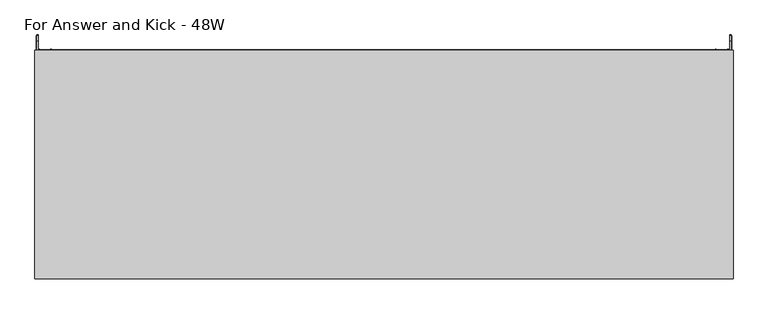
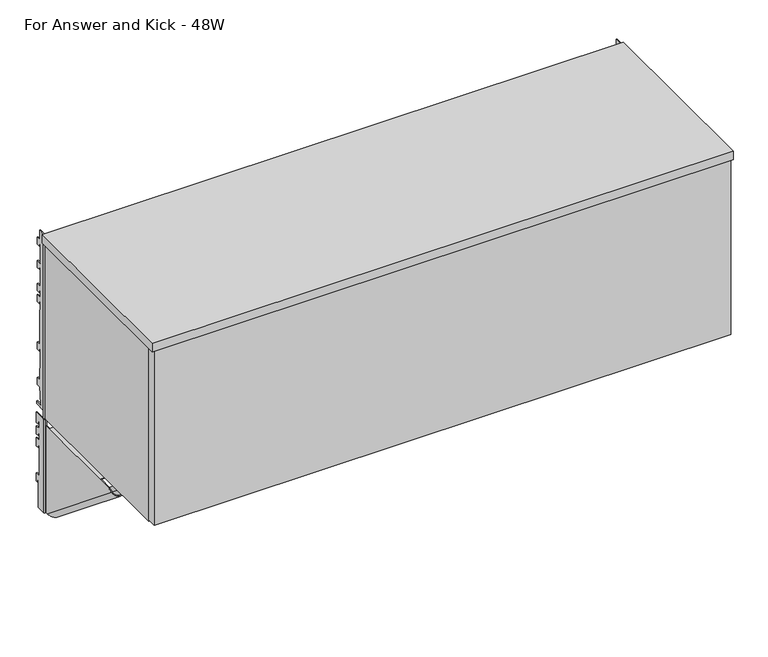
"""IFC4 building model written with IfcOpenShell, lengths in millimetres: furniture geometry, Steelcase - Universal Storage - In the Case Bin - Flat Front : For Answer and Kick - 48W."""

from ifc_helpers import new_model, si_unit, point, frame, frame_2d, origin, place, context, project, spatial, polyline, circle_curve, ellipse_curve, trimmed, segment, composite_curve, outline, extrude, faceted_brep, source, transform, mapped, element, save
from ifc_brep_helpers import plane_surface, cylinder_surface, revolved_surface, advanced_brep


def for_answer_and_kick_48w_fee2293e(model_context):
    return source(origin(), model_context, "Body", "SolidModel", [
        advanced_brep(
        [(4.0894, 24.9864881, 1247.9655), (4.0894, 1.1327479, 1247.9655), (4.0894, 1.1203386, 1040.9809), (4.0894, 17.3410881, 1040.9809), (4.0894, 17.3410881, 1101.1280822), (4.0894, 21.4050888, 1101.1280822), (4.0894, 21.4050888, 1094.7781064), (4.0894, 24.9864881, 1094.7781064), (4.0894, 24.9864881, 1113.0407271), (4.0894, 14.7756879, 1113.0407271), (4.0894, 14.7756879, 1179.6141345), (4.0894, 18.8396885, 1179.6141345), (4.0894, 18.8396885, 1173.264086), (4.0894, 24.9864881, 1173.264086), (4.0894, 24.9864881, 1191.5267068), (4.0894, 14.7756879, 1191.5267068), (4.0894, 14.7756879, 1205.7761277), (4.0894, 18.8396885, 1205.7761277), (4.0894, 18.8396885, 1199.4260793), (4.0894, 24.9864881, 1199.4260793), (4.0894, 24.9864881, 1217.6887), (4.0894, 14.7756879, 1217.6887), (4.0894, 14.7756879, 1231.9381209), (4.0894, 18.8396885, 1231.9381209), (4.0894, 18.8396885, 1225.5880725), (4.0894, 24.9864881, 1225.5880725), (2.1844, 24.9864881, 1247.9655), (2.1844, 24.9864881, 1225.5880725), (2.1844, 18.8396885, 1225.5880725), (2.1844, 18.8396885, 1231.9381209), (2.1844, 14.7756879, 1231.9381209), (2.1844, 14.7756879, 1217.6887), (2.1844, 24.9864881, 1217.6887), (2.1844, 24.9864881, 1199.4260793), (2.1844, 18.8396885, 1199.4260793), (2.1844, 18.8396885, 1205.7761277), (2.1844, 14.7756879, 1205.7761277), (2.1844, 14.7756879, 1191.5267068), (2.1844, 24.9864881, 1191.5267068), (2.1844, 24.9864881, 1173.264086), (2.1844, 18.8396885, 1173.264086), (2.1844, 18.8396885, 1179.6141345), (2.1844, 14.7756879, 1179.6141345), (2.1844, 14.7756879, 1113.0407271), (2.1844, 24.9864881, 1113.0407271), (2.1844, 24.9864881, 1094.7781064), (2.1844, 21.4050888, 1094.7781064), (2.1844, 21.4050888, 1101.1280822), (2.1844, 17.3410881, 1101.1280822), (2.1844, 17.3410881, 1040.9809), (2.1844, -0.7757522, 1040.9809), (2.1844, -0.7757522, 1247.9655), (4.4891598, -3.080512, 1247.9655), (8.1026, -3.080512, 1247.9655), (8.1026, -1.7838863, 1247.9655), (7.4942256, -1.175512, 1247.9655), (6.3852506, -1.175512, 1247.9655), (6.3852506, -1.175512, 1040.9809), (7.4942256, -1.175512, 1040.9809), (8.1026, -1.7838863, 1040.9809), (8.1026, -3.080512, 1040.9809), (4.4891598, -3.080512, 1040.9809)],
        [
            (0, 1),
            (1, 2),
            (2, 3),
            (3, 4),
            (4, 5),
            (5, 6),
            (6, 7),
            (7, 8),
            (8, 9),
            (9, 10),
            (10, 11),
            (11, 12),
            (12, 13),
            (13, 14),
            (14, 15),
            (15, 16),
            (16, 17),
            (17, 18),
            (18, 19),
            (19, 20),
            (20, 21),
            (21, 22),
            (22, 23),
            (23, 24),
            (24, 25),
            (25, 0),
            (26, 27),
            (27, 28),
            (28, 29),
            (29, 30),
            (30, 31),
            (31, 32),
            (32, 33),
            (33, 34),
            (34, 35),
            (35, 36),
            (36, 37),
            (37, 38),
            (38, 39),
            (39, 40),
            (40, 41),
            (41, 42),
            (42, 43),
            (43, 44),
            (44, 45),
            (45, 46),
            (46, 47),
            (47, 48),
            (48, 49),
            (49, 50),
            (50, 51),
            (51, 26),
            (0, 26),
            (51, 52, circle_curve(frame((4.4891598, -0.7757522, 1247.9655), z_axis=(0.0, 0.0, 1.0), x_axis=(1.0, 0.0, 0.0)), 2.3047598)),
            (52, 53),
            (53, 54),
            (54, 55, circle_curve(frame((7.4942256, -1.7838863, 1247.9655), z_axis=(0.0, 0.0, 1.0), x_axis=(1.0, 0.0, 0.0)), 0.6083744)),
            (55, 56),
            (56, 1, circle_curve(frame((6.3852506, 1.1203386, 1247.9655), z_axis=(0.0, 0.0, -1.0), x_axis=(1.0, 0.0, 0.0)), 2.2958506)),
            (2, 57, circle_curve(frame((6.3852506, 1.1203386, 1040.9809), z_axis=(0.0, 0.0, 1.0), x_axis=(1.0, 0.0, 0.0)), 2.2958506)),
            (57, 58),
            (58, 59, circle_curve(frame((7.4942256, -1.7838863, 1040.9809), z_axis=(0.0, 0.0, -1.0), x_axis=(1.0, 0.0, 0.0)), 0.6083744)),
            (59, 60),
            (60, 61),
            (61, 50, circle_curve(frame((4.4891598, -0.7757522, 1040.9809), z_axis=(0.0, 0.0, -1.0), x_axis=(1.0, 0.0, 0.0)), 2.3047598)),
            (49, 3),
            (48, 4),
            (47, 5),
            (46, 6),
            (45, 7),
            (44, 8),
            (43, 9),
            (42, 10),
            (41, 11),
            (40, 12),
            (39, 13),
            (38, 14),
            (37, 15),
            (36, 16),
            (35, 17),
            (34, 18),
            (33, 19),
            (32, 20),
            (31, 21),
            (30, 22),
            (29, 23),
            (28, 24),
            (27, 25),
            (61, 52),
            (60, 53),
            (59, 54),
            (58, 55),
            (57, 56),
        ],
        [
            plane_surface(frame((4.0894, 1.241405, 1247.9655), z_axis=(1.0, 0.0, 0.0), x_axis=(0.0, -1.0, 0.0))),
            plane_surface(frame((2.1844, 1.241405, 1247.9655), z_axis=(-1.0, 0.0, 0.0), x_axis=(0.0, 1.0, 0.0))),
            plane_surface(frame((4.0894, 24.9864881, 1247.9655), z_axis=(0.0, 0.0, 1.0), x_axis=(-1.0, 0.0, 0.0))),
            plane_surface(frame((4.0894, 1.1327479, 1040.9809), z_axis=(0.0, 0.0, -1.0), x_axis=(-1.0, 0.0, 0.0))),
            plane_surface(frame((4.0894, 17.3410881, 1040.9809), z_axis=(0.0, 1.0, 0.0), x_axis=(-1.0, 0.0, 0.0))),
            plane_surface(frame((4.0894, 17.3410881, 1101.1280822), z_axis=(0.0, 0.0, -1.0), x_axis=(-1.0, 0.0, 0.0))),
            plane_surface(frame((4.0894, 21.4050888, 1101.1280822), z_axis=(0.0, -1.0, 0.0), x_axis=(-1.0, 0.0, 0.0))),
            plane_surface(frame((4.0894, 21.4050888, 1094.7781064), z_axis=(0.0, 0.0, -1.0), x_axis=(-1.0, 0.0, 0.0))),
            plane_surface(frame((4.0894, 24.9864881, 1094.7781064), z_axis=(0.0, 1.0, 0.0), x_axis=(-1.0, 0.0, 0.0))),
            plane_surface(frame((4.0894, 24.9864881, 1113.0407271), z_axis=(0.0, 0.0, 1.0), x_axis=(-1.0, 0.0, 0.0))),
            plane_surface(frame((4.0894, 14.7756879, 1113.0407271), z_axis=(0.0, 1.0, 0.0), x_axis=(-1.0, 0.0, 0.0))),
            plane_surface(frame((4.0894, 14.7756879, 1179.6141345), z_axis=(0.0, 0.0, -1.0), x_axis=(-1.0, 0.0, 0.0))),
            plane_surface(frame((4.0894, 18.8396885, 1179.6141345), z_axis=(0.0, -1.0, 0.0), x_axis=(-1.0, 0.0, 0.0))),
            plane_surface(frame((4.0894, 18.8396885, 1173.264086), z_axis=(0.0, 0.0, -1.0), x_axis=(-1.0, 0.0, 0.0))),
            plane_surface(frame((4.0894, 24.9864881, 1173.264086), z_axis=(0.0, 1.0, 0.0), x_axis=(-1.0, 0.0, 0.0))),
            plane_surface(frame((4.0894, 24.9864881, 1191.5267068), z_axis=(0.0, 0.0, 1.0), x_axis=(-1.0, 0.0, 0.0))),
            plane_surface(frame((4.0894, 14.7756879, 1191.5267068), z_axis=(0.0, 1.0, 0.0), x_axis=(-1.0, 0.0, 0.0))),
            plane_surface(frame((4.0894, 14.7756879, 1205.7761277), z_axis=(0.0, 0.0, -1.0), x_axis=(-1.0, 0.0, 0.0))),
            plane_surface(frame((4.0894, 18.8396885, 1205.7761277), z_axis=(0.0, -1.0, 0.0), x_axis=(-1.0, 0.0, 0.0))),
            plane_surface(frame((4.0894, 18.8396885, 1199.4260793), z_axis=(0.0, 0.0, -1.0), x_axis=(-1.0, 0.0, 0.0))),
            plane_surface(frame((4.0894, 24.9864881, 1199.4260793), z_axis=(0.0, 1.0, 0.0), x_axis=(-1.0, 0.0, 0.0))),
            plane_surface(frame((4.0894, 24.9864881, 1217.6887), z_axis=(0.0, 0.0, 1.0), x_axis=(-1.0, 0.0, 0.0))),
            plane_surface(frame((4.0894, 14.7756879, 1217.6887), z_axis=(0.0, 1.0, 0.0), x_axis=(-1.0, 0.0, 0.0))),
            plane_surface(frame((4.0894, 14.7756879, 1231.9381209), z_axis=(0.0, 0.0, -1.0), x_axis=(-1.0, 0.0, 0.0))),
            plane_surface(frame((4.0894, 18.8396885, 1231.9381209), z_axis=(0.0, -1.0, 0.0), x_axis=(-1.0, 0.0, 0.0))),
            plane_surface(frame((4.0894, 18.8396885, 1225.5880725), z_axis=(0.0, 0.0, -1.0), x_axis=(-1.0, 0.0, 0.0))),
            plane_surface(frame((4.0894, 24.9864881, 1225.5880725), z_axis=(0.0, 1.0, 0.0), x_axis=(-1.0, 0.0, 0.0))),
            cylinder_surface(frame((4.4891598, -0.7757522, 1040.9809), z_axis=(0.0, 0.0, 1.0), x_axis=(1.0, 0.0, 0.0)), 2.3047598),
            plane_surface(frame((4.4891598, -3.080512, 1247.9655), z_axis=(0.0, -1.0, 0.0), x_axis=(0.0, 0.0, -1.0))),
            plane_surface(frame((8.1026, -3.080512, 1247.9655), z_axis=(1.0, 0.0, 0.0), x_axis=(0.0, 0.0, -1.0))),
            cylinder_surface(frame((7.4942256, -1.7838863, 1040.9809), z_axis=(0.0, 0.0, 1.0), x_axis=(1.0, 0.0, 0.0)), 0.6083744),
            plane_surface(frame((7.4942256, -1.175512, 1247.9655), z_axis=(0.0, 1.0, 0.0), x_axis=(0.0, 0.0, -1.0))),
            revolved_surface(polyline([(8.6811012, 1.1203386, 1040.9809), (8.6811012, 1.1203386, 1247.9655)]), (6.3852506, 1.1203386, 1040.9809), (0.0, 0.0, -1.0)),
        ],
        [
            (0, [[1, 2, 3, 4, 5, 6, 7, 8, 9, 10, 11, 12, 13, 14, 15, 16, 17, 18, 19, 20, 21, 22, 23, 24, 25, 26]]),
            (1, [[27, 28, 29, 30, 31, 32, 33, 34, 35, 36, 37, 38, 39, 40, 41, 42, 43, 44, 45, 46, 47, 48, 49, 50, 51, 52]]),
            (2, [[-1, 53, -52, 54, 55, 56, 57, 58, 59]]),
            (3, [[-3, 60, 61, 62, 63, 64, 65, -50, 66]]),
            (4, [[-4, -66, -49, 67]]),
            (5, [[-5, -67, -48, 68]]),
            (6, [[-6, -68, -47, 69]]),
            (7, [[-7, -69, -46, 70]]),
            (8, [[-8, -70, -45, 71]]),
            (9, [[-9, -71, -44, 72]]),
            (10, [[-10, -72, -43, 73]]),
            (11, [[-11, -73, -42, 74]]),
            (12, [[-12, -74, -41, 75]]),
            (13, [[-13, -75, -40, 76]]),
            (14, [[-14, -76, -39, 77]]),
            (15, [[-15, -77, -38, 78]]),
            (16, [[-16, -78, -37, 79]]),
            (17, [[-17, -79, -36, 80]]),
            (18, [[-18, -80, -35, 81]]),
            (19, [[-19, -81, -34, 82]]),
            (20, [[-20, -82, -33, 83]]),
            (21, [[-21, -83, -32, 84]]),
            (22, [[-22, -84, -31, 85]]),
            (23, [[-23, -85, -30, 86]]),
            (24, [[-24, -86, -29, 87]]),
            (25, [[-25, -87, -28, 88]]),
            (26, [[-26, -88, -27, -53]]),
            (27, [[-54, -51, -65, 89]]),
            (28, [[-55, -89, -64, 90]]),
            (29, [[-56, -90, -63, 91]]),
            (30, [[-57, -91, -62, 92]]),
            (31, [[-58, -92, -61, 93]]),
            (32, [[-59, -93, -60, -2]]),
        ],
    ),
        advanced_brep(
        [(1215.1106, 24.9864881, 1247.9655), (1215.1106, 24.9864881, 1225.5880725), (1215.1106, 18.8396885, 1225.5880725), (1215.1106, 18.8396885, 1231.9381209), (1215.1106, 14.7756879, 1231.9381209), (1215.1106, 14.7756879, 1217.6887), (1215.1106, 24.9864881, 1217.6887), (1215.1106, 24.9864881, 1199.4260793), (1215.1106, 18.8396885, 1199.4260793), (1215.1106, 18.8396885, 1205.7761277), (1215.1106, 14.7756879, 1205.7761277), (1215.1106, 14.7756879, 1191.5267068), (1215.1106, 24.9864881, 1191.5267068), (1215.1106, 24.9864881, 1173.264086), (1215.1106, 18.8396885, 1173.264086), (1215.1106, 18.8396885, 1179.6141345), (1215.1106, 14.7756879, 1179.6141345), (1215.1106, 14.7756879, 1113.0407271), (1215.1106, 24.9864881, 1113.0407271), (1215.1106, 24.9864881, 1094.7781064), (1215.1106, 21.4050888, 1094.7781064), (1215.1106, 21.4050888, 1101.1280822), (1215.1106, 17.3410881, 1101.1280822), (1215.1106, 17.3410881, 1040.9809), (1215.1106, 1.1327479, 1040.9809), (1215.1106, 1.1203386, 1247.9655), (1217.0156, -0.7757522, 1247.9655), (1217.0156, -0.7757522, 1040.9809), (1217.0156, 17.3410881, 1040.9809), (1217.0156, 17.3410881, 1101.1280822), (1217.0156, 21.4050888, 1101.1280822), (1217.0156, 21.4050888, 1094.7781064), (1217.0156, 24.9864881, 1094.7781064), (1217.0156, 24.9864881, 1113.0407271), (1217.0156, 14.7756879, 1113.0407271), (1217.0156, 14.7756879, 1179.6141345), (1217.0156, 18.8396885, 1179.6141345), (1217.0156, 18.8396885, 1173.264086), (1217.0156, 24.9864881, 1173.264086), (1217.0156, 24.9864881, 1191.5267068), (1217.0156, 14.7756879, 1191.5267068), (1217.0156, 14.7756879, 1205.7761277), (1217.0156, 18.8396885, 1205.7761277), (1217.0156, 18.8396885, 1199.4260793), (1217.0156, 24.9864881, 1199.4260793), (1217.0156, 24.9864881, 1217.6887), (1217.0156, 14.7756879, 1217.6887), (1217.0156, 14.7756879, 1231.9381209), (1217.0156, 18.8396885, 1231.9381209), (1217.0156, 18.8396885, 1225.5880725), (1217.0156, 24.9864881, 1225.5880725), (1217.0156, 24.9864881, 1247.9655), (1214.7108402, -3.080512, 1040.9809), (1211.3006, -3.080512, 1040.9809), (1211.3006, -1.7838863, 1040.9809), (1211.9089744, -1.175512, 1040.9809), (1212.8147494, -1.175512, 1040.9809), (1212.8147494, -1.175512, 1247.9655), (1211.9089744, -1.175512, 1247.9655), (1211.3006, -1.7838863, 1247.9655), (1211.3006, -3.080512, 1247.9655), (1214.7108402, -3.080512, 1247.9655)],
        [
            (0, 1),
            (1, 2),
            (2, 3),
            (3, 4),
            (4, 5),
            (5, 6),
            (6, 7),
            (7, 8),
            (8, 9),
            (9, 10),
            (10, 11),
            (11, 12),
            (12, 13),
            (13, 14),
            (14, 15),
            (15, 16),
            (16, 17),
            (17, 18),
            (18, 19),
            (19, 20),
            (20, 21),
            (21, 22),
            (22, 23),
            (23, 24),
            (24, 25),
            (25, 0),
            (26, 27),
            (27, 28),
            (28, 29),
            (29, 30),
            (30, 31),
            (31, 32),
            (32, 33),
            (33, 34),
            (34, 35),
            (35, 36),
            (36, 37),
            (37, 38),
            (38, 39),
            (39, 40),
            (40, 41),
            (41, 42),
            (42, 43),
            (43, 44),
            (44, 45),
            (45, 46),
            (46, 47),
            (47, 48),
            (48, 49),
            (49, 50),
            (50, 51),
            (51, 26),
            (0, 51),
            (50, 1),
            (49, 2),
            (48, 3),
            (47, 4),
            (46, 5),
            (45, 6),
            (44, 7),
            (43, 8),
            (42, 9),
            (41, 10),
            (40, 11),
            (39, 12),
            (38, 13),
            (37, 14),
            (36, 15),
            (35, 16),
            (34, 17),
            (33, 18),
            (32, 19),
            (31, 20),
            (30, 21),
            (29, 22),
            (28, 23),
            (27, 52, circle_curve(frame((1214.7108402, -0.7757522, 1040.9809), z_axis=(0.0, 0.0, -1.0), x_axis=(0.0, 1.0, 0.0)), 2.3047598)),
            (52, 53),
            (53, 54),
            (54, 55, circle_curve(frame((1211.9089744, -1.7838863, 1040.9809), z_axis=(0.0, 0.0, -1.0), x_axis=(0.0, 1.0, 0.0)), 0.6083744)),
            (55, 56),
            (56, 24, circle_curve(frame((1212.8147494, 1.1203386, 1040.9809), z_axis=(0.0, 0.0, 1.0), x_axis=(0.0, 1.0, 0.0)), 2.2958506)),
            (25, 57, circle_curve(frame((1212.8147494, 1.1203386, 1247.9655), z_axis=(0.0, 0.0, -1.0), x_axis=(0.0, 1.0, 0.0)), 2.2958506)),
            (57, 58),
            (58, 59, circle_curve(frame((1211.9089744, -1.7838863, 1247.9655), z_axis=(0.0, 0.0, 1.0), x_axis=(0.0, 1.0, 0.0)), 0.6083744)),
            (59, 60),
            (60, 61),
            (61, 26, circle_curve(frame((1214.7108402, -0.7757522, 1247.9655), z_axis=(0.0, 0.0, 1.0), x_axis=(0.0, 1.0, 0.0)), 2.3047598)),
            (56, 57),
            (55, 58),
            (54, 59),
            (53, 60),
            (52, 61),
        ],
        [
            plane_surface(frame((1215.1106, 24.9864881, 1247.9655), z_axis=(-1.0, 0.0, 0.0), x_axis=(0.0, 0.0, -1.0))),
            plane_surface(frame((1217.0156, 24.9864881, 1247.9655), z_axis=(1.0, 0.0, 0.0), x_axis=(0.0, 0.0, 1.0))),
            plane_surface(frame((1215.1106, 24.9864881, 1247.9655), z_axis=(0.0, 1.0, 0.0), x_axis=(1.0, 0.0, 0.0))),
            plane_surface(frame((1215.1106, 24.9864881, 1225.5880725), z_axis=(0.0, 0.0, -1.0), x_axis=(1.0, 0.0, 0.0))),
            plane_surface(frame((1215.1106, 18.8396885, 1225.5880725), z_axis=(0.0, -1.0, 0.0), x_axis=(1.0, 0.0, 0.0))),
            plane_surface(frame((1215.1106, 18.8396885, 1231.9381209), z_axis=(0.0, 0.0, -1.0), x_axis=(1.0, 0.0, 0.0))),
            plane_surface(frame((1215.1106, 14.7756879, 1231.9381209), z_axis=(0.0, 1.0, 0.0), x_axis=(1.0, 0.0, 0.0))),
            plane_surface(frame((1215.1106, 14.7756879, 1217.6887), z_axis=(0.0, 0.0, 1.0), x_axis=(1.0, 0.0, 0.0))),
            plane_surface(frame((1215.1106, 24.9864881, 1217.6887), z_axis=(0.0, 1.0, 0.0), x_axis=(1.0, 0.0, 0.0))),
            plane_surface(frame((1215.1106, 24.9864881, 1199.4260793), z_axis=(0.0, 0.0, -1.0), x_axis=(1.0, 0.0, 0.0))),
            plane_surface(frame((1215.1106, 18.8396885, 1199.4260793), z_axis=(0.0, -1.0, 0.0), x_axis=(1.0, 0.0, 0.0))),
            plane_surface(frame((1215.1106, 18.8396885, 1205.7761277), z_axis=(0.0, 0.0, -1.0), x_axis=(1.0, 0.0, 0.0))),
            plane_surface(frame((1215.1106, 14.7756879, 1205.7761277), z_axis=(0.0, 1.0, 0.0), x_axis=(1.0, 0.0, 0.0))),
            plane_surface(frame((1215.1106, 14.7756879, 1191.5267068), z_axis=(0.0, 0.0, 1.0), x_axis=(1.0, 0.0, 0.0))),
            plane_surface(frame((1215.1106, 24.9864881, 1191.5267068), z_axis=(0.0, 1.0, 0.0), x_axis=(1.0, 0.0, 0.0))),
            plane_surface(frame((1215.1106, 24.9864881, 1173.264086), z_axis=(0.0, 0.0, -1.0), x_axis=(1.0, 0.0, 0.0))),
            plane_surface(frame((1215.1106, 18.8396885, 1173.264086), z_axis=(0.0, -1.0, 0.0), x_axis=(1.0, 0.0, 0.0))),
            plane_surface(frame((1215.1106, 18.8396885, 1179.6141345), z_axis=(0.0, 0.0, -1.0), x_axis=(1.0, 0.0, 0.0))),
            plane_surface(frame((1215.1106, 14.7756879, 1179.6141345), z_axis=(0.0, 1.0, 0.0), x_axis=(1.0, 0.0, 0.0))),
            plane_surface(frame((1215.1106, 14.7756879, 1113.0407271), z_axis=(0.0, 0.0, 1.0), x_axis=(1.0, 0.0, 0.0))),
            plane_surface(frame((1215.1106, 24.9864881, 1113.0407271), z_axis=(0.0, 1.0, 0.0), x_axis=(1.0, 0.0, 0.0))),
            plane_surface(frame((1215.1106, 24.9864881, 1094.7781064), z_axis=(0.0, 0.0, -1.0), x_axis=(1.0, 0.0, 0.0))),
            plane_surface(frame((1215.1106, 21.4050888, 1094.7781064), z_axis=(0.0, -1.0, 0.0), x_axis=(1.0, 0.0, 0.0))),
            plane_surface(frame((1215.1106, 21.4050888, 1101.1280822), z_axis=(0.0, 0.0, -1.0), x_axis=(1.0, 0.0, 0.0))),
            plane_surface(frame((1215.1106, 17.3410881, 1101.1280822), z_axis=(0.0, 1.0, 0.0), x_axis=(1.0, 0.0, 0.0))),
            plane_surface(frame((1215.1106, 17.3410881, 1040.9809), z_axis=(0.0, 0.0, -1.0), x_axis=(1.0, 0.0, 0.0))),
            plane_surface(frame((1215.1106, 1.1327479, 1247.9655), z_axis=(0.0, 0.0, 1.0), x_axis=(1.0, 0.0, 0.0))),
            revolved_surface(polyline([(1212.8147494, 3.4161892, 1040.9809), (1212.8147494, 3.4161892, 1247.9655)]), (1212.8147494, 1.1203386, 1040.9809), (0.0, 0.0, -1.0)),
            plane_surface(frame((1212.8147494, -1.175512, 1247.9655), z_axis=(0.0, 1.0, 0.0), x_axis=(0.0, 0.0, -1.0))),
            cylinder_surface(frame((1211.9089744, -1.7838863, 1040.9809), z_axis=(0.0, 0.0, 1.0), x_axis=(0.0, 1.0, 0.0)), 0.6083744),
            plane_surface(frame((1211.3006, -1.7838863, 1247.9655), z_axis=(-1.0, 0.0, 0.0), x_axis=(0.0, 0.0, -1.0))),
            plane_surface(frame((1211.3006, -3.080512, 1247.9655), z_axis=(1.0859723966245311e-11, -1.0, 0.0), x_axis=(0.0, 0.0, -1.0))),
            cylinder_surface(frame((1214.7108402, -0.7757522, 1040.9809), z_axis=(0.0, 0.0, 1.0), x_axis=(0.0, 1.0, 0.0)), 2.3047598),
        ],
        [
            (0, [[1, 2, 3, 4, 5, 6, 7, 8, 9, 10, 11, 12, 13, 14, 15, 16, 17, 18, 19, 20, 21, 22, 23, 24, 25, 26]]),
            (1, [[27, 28, 29, 30, 31, 32, 33, 34, 35, 36, 37, 38, 39, 40, 41, 42, 43, 44, 45, 46, 47, 48, 49, 50, 51, 52]]),
            (2, [[-1, 53, -51, 54]]),
            (3, [[-2, -54, -50, 55]]),
            (4, [[-3, -55, -49, 56]]),
            (5, [[-4, -56, -48, 57]]),
            (6, [[-5, -57, -47, 58]]),
            (7, [[-6, -58, -46, 59]]),
            (8, [[-7, -59, -45, 60]]),
            (9, [[-8, -60, -44, 61]]),
            (10, [[-9, -61, -43, 62]]),
            (11, [[-10, -62, -42, 63]]),
            (12, [[-11, -63, -41, 64]]),
            (13, [[-12, -64, -40, 65]]),
            (14, [[-13, -65, -39, 66]]),
            (15, [[-14, -66, -38, 67]]),
            (16, [[-15, -67, -37, 68]]),
            (17, [[-16, -68, -36, 69]]),
            (18, [[-17, -69, -35, 70]]),
            (19, [[-18, -70, -34, 71]]),
            (20, [[-19, -71, -33, 72]]),
            (21, [[-20, -72, -32, 73]]),
            (22, [[-21, -73, -31, 74]]),
            (23, [[-22, -74, -30, 75]]),
            (24, [[-23, -75, -29, 76]]),
            (25, [[-24, -76, -28, 77, 78, 79, 80, 81, 82]]),
            (26, [[-26, 83, 84, 85, 86, 87, 88, -52, -53]]),
            (27, [[-83, -25, -82, 89]]),
            (28, [[-84, -89, -81, 90]]),
            (29, [[-85, -90, -80, 91]]),
            (30, [[-86, -91, -79, 92]]),
            (31, [[-87, -92, -78, 93]]),
            (32, [[-88, -93, -77, -27]]),
        ],
    ),
        advanced_brep(
        [(1190.1424, -230.0833372, 1233.8431), (1190.1424, 1.1327479, 1046.6079738), (1188.0342, 1.1327479, 1046.6079738), (1188.0342, -230.0833372, 1233.8431), (1188.0342, 1.1327479, 1040.9809), (1188.0342, -7.7654502, 1040.9809), (1188.0342, -240.6555763, 1229.5716381), (1211.3006, -7.7654502, 1040.9809), (1211.3006, -240.6555763, 1229.5716381), (1211.3006, 1.1327479, 1040.9809), (1211.3006, 1.1327479, 1046.6079738), (1211.3006, -3.080512, 1050.019805), (1211.3006, -3.080512, 1233.8431), (1211.3006, -230.0833372, 1233.8431), (1209.1924009, 1.1327479, 1046.6079738), (1209.1924009, -3.080512, 1050.019805), (1209.1924009, -7.7654502, 1040.9809), (1209.1924009, -240.6555763, 1229.5716381), (1209.1924009, -230.0833372, 1233.8431), (1209.1924009, -200.311512, 1233.8431), (1209.1924009, -200.311512, 1233.0049163), (1209.1924009, -14.0787123, 1233.0049163), (1209.1924009, -14.0787123, 1233.8431), (1209.1924009, -3.080512, 1233.8431), (1209.1924009, 1.1327479, 1040.9809), (1190.1424, -7.7654502, 1040.9809), (1190.1424, -240.6555763, 1229.5716381), (1190.1424, 1.1327479, 1040.9809), (1180.2617978, -200.311512, 1233.8431), (1180.2617978, -200.311512, 1252.2581016), (1179.4236, -200.311512, 1252.2581016), (1179.4236, -200.311512, 1233.0049163), (1179.4236, -82.5825138, 1252.2581016), (1180.2617978, -82.5825138, 1252.2581016), (1180.2617978, -82.5825138, 1233.8431), (1179.4236, -82.5825138, 1233.8431), (1179.4236, -14.0787123, 1233.8431), (1179.4236, -14.0787123, 1233.0049163)],
        [
            (0, 1),
            (1, 2),
            (2, 3),
            (3, 0),
            (2, 4),
            (4, 5),
            (5, 6),
            (6, 3),
            (5, 7, ellipse_curve(frame((1199.6674, -7.7654502, 1040.9809), z_axis=(0.0, 0.0, 1.0), x_axis=(0.0, -1.0, 0.0)), 18.4853359, 11.6332)),
            (7, 8),
            (8, 6, ellipse_curve(frame((1199.6674, -240.6555763, 1229.5716381), z_axis=(0.0, 0.374606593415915, -0.9271838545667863), x_axis=(0.0, -0.9271838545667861, -0.3746065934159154)), 13.3008659, 11.6332)),
            (7, 9),
            (9, 10),
            (10, 11),
            (11, 12),
            (12, 13),
            (13, 8),
            (10, 14),
            (14, 15),
            (15, 11),
            (16, 17),
            (17, 18),
            (18, 19),
            (19, 20),
            (20, 21),
            (21, 22),
            (22, 23),
            (23, 15),
            (14, 24),
            (24, 16),
            (16, 25, ellipse_curve(frame((1199.6674005, -7.7654502, 1040.9809), z_axis=(0.0, 0.0, -1.0), x_axis=(0.0, 1.0, 0.0)), 15.135374, 9.5250005)),
            (25, 26),
            (26, 17, ellipse_curve(frame((1199.6674005, -240.6555763, 1229.5716381), z_axis=(0.0, -0.374606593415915, 0.9271838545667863), x_axis=(0.0, 0.9271838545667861, 0.3746065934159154)), 10.8904475, 9.5250005)),
            (0, 26),
            (25, 27),
            (27, 1),
            (13, 18),
            (24, 9),
            (4, 27),
            (28, 29),
            (29, 30),
            (30, 31),
            (31, 20),
            (19, 28),
            (32, 33),
            (33, 34),
            (34, 35),
            (35, 32),
            (35, 36),
            (36, 37),
            (37, 31),
            (30, 32),
            (28, 34),
            (33, 29),
            (36, 22),
            (21, 37),
            (12, 23),
        ],
        [
            plane_surface(frame((1190.1424, -241.2702093, 1242.902052), z_axis=(0.0, 0.6293204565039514, 0.7771459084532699), x_axis=(0.0, 0.7771459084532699, -0.6293204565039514))),
            plane_surface(frame((1188.0342, -241.2702093, 1242.902052), z_axis=(-1.0, 0.0, 0.0), x_axis=(0.0, 0.7771459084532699, -0.6293204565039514))),
            cylinder_surface(frame((1199.6674, 5.728998, 1030.0533094), z_axis=(0.0, -0.7771459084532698, 0.6293204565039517), x_axis=(0.0, 0.6293204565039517, 0.7771459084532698)), 11.6332),
            plane_surface(frame((1211.3006, -247.5463438, 1235.1516726), z_axis=(1.0000000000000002, 0.0, 0.0), x_axis=(0.0, 0.7771459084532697, -0.6293204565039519))),
            plane_surface(frame((1211.3006, -241.2702093, 1242.902052), z_axis=(0.0, 0.6293204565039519, 0.7771459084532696), x_axis=(0.0, 0.7771459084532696, -0.6293204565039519))),
            plane_surface(frame((1209.1924009, -241.2702093, 1242.902052), z_axis=(-1.0, 0.0, 0.0), x_axis=(0.0, 0.7771459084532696, -0.6293204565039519))),
            revolved_surface(polyline([(1199.6674005, 7.3699238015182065, 1040.980900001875), (1199.6674005, -238.76446812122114, 1240.2966349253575)]), (1199.6674005, 5.728998, 1030.0533094), (0.0, 0.7771459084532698, -0.6293204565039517)),
            plane_surface(frame((1190.1424, -247.5463438, 1235.1516726), z_axis=(1.0000000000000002, 0.0, 0.0), x_axis=(0.0, 0.7771459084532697, -0.6293204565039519))),
            plane_surface(frame((1219.2, -257.2236519, 1222.8777011), z_axis=(0.0, -0.374606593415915, 0.9271838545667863), x_axis=(-1.0, 0.0, 0.0))),
            plane_surface(frame((1219.2, 1.1327479, 1040.9809), z_axis=(0.0, 0.0, -1.0), x_axis=(-1.0, 0.0, 0.0))),
            plane_surface(frame((1219.2, 1.1327479, 1053.6809), z_axis=(0.0, 1.0, 0.0), x_axis=(-1.0, 0.0, 0.0))),
            plane_surface(frame((1179.4236, -200.311512, 1252.2581016), z_axis=(0.0, -1.0, 0.0), x_axis=(0.0, 0.0, -1.0))),
            plane_surface(frame((1179.4236, -82.5825138, 1252.2581016), z_axis=(0.0, 1.0, 0.0), x_axis=(0.0, 0.0, 1.0))),
            plane_surface(frame((1179.4236, -200.311512, 1252.2581016), z_axis=(-1.0, 0.0, 0.0), x_axis=(0.0, 1.0, 0.0))),
            plane_surface(frame((1180.2617978, -200.311512, 1233.8431), z_axis=(1.0, 0.0, 0.0), x_axis=(0.0, 1.0, 0.0))),
            plane_surface(frame((1180.2617978, -200.311512, 1252.2581016), z_axis=(0.0, 0.0, 1.0), x_axis=(0.0, 1.0, 0.0))),
            plane_surface(frame((1179.4236, -14.0787123, 1233.8431), z_axis=(0.0, 1.0, 0.0), x_axis=(0.0, 0.0, 1.0))),
            plane_surface(frame((1179.4236, -200.311512, 1233.0049163), z_axis=(0.0, 0.0, -1.0), x_axis=(0.0, 1.0, 0.0))),
            plane_surface(frame((1211.3006, -200.311512, 1233.8431), z_axis=(0.0, 0.0, 1.0), x_axis=(0.0, 1.0, 0.0))),
            plane_surface(frame((1211.3006, -3.080512, 1050.019805), z_axis=(0.0, 1.0, 0.0), x_axis=(-1.0, 0.0, 0.0))),
        ],
        [
            (0, [[1, 2, 3, 4]]),
            (1, [[-3, 5, 6, 7, 8]]),
            (2, [[-7, 9, 10, 11]]),
            (3, [[-10, 12, 13, 14, 15, 16, 17]]),
            (4, [[18, 19, 20, -14]]),
            (5, [[21, 22, 23, 24, 25, 26, 27, 28, -19, 29, 30]]),
            (6, [[-21, 31, 32, 33]]),
            (7, [[-1, 34, -32, 35, 36]]),
            (8, [[-4, -8, -11, -17, 37, -22, -33, -34]]),
            (9, [[38, -12, -9, -6, 39, -35, -31, -30]]),
            (10, [[-38, -29, -18, -13]]),
            (10, [[-39, -5, -2, -36]]),
            (11, [[40, 41, 42, 43, -24, 44]]),
            (12, [[45, 46, 47, 48]]),
            (13, [[-48, 49, 50, 51, -42, 52]]),
            (14, [[-40, 53, -46, 54]]),
            (15, [[-41, -54, -45, -52]]),
            (16, [[-50, 55, -26, 56]]),
            (17, [[-51, -56, -25, -43]]),
            (18, [[57, -27, -55, -49, -47, -53, -44, -23, -37, -16]]),
            (19, [[-15, -20, -28, -57]]),
        ],
    ),
        advanced_brep(
        [(8.1026, -3.080512, 1050.019805), (8.1026, -3.080512, 1233.8431), (8.1026, -14.0787123, 1233.8431), (8.1026, -14.0787123, 1233.0049163), (8.1026, -200.311512, 1233.0049163), (8.1026, -200.311512, 1233.8431), (8.1026, -230.0833372, 1233.8431), (8.1026, -240.6555763, 1229.5716381), (8.1026, -7.7654502, 1040.9809), (8.1026, 1.1327479, 1040.9809), (8.1026, 1.1327479, 1046.6079738), (5.9944, -3.080512, 1233.8431), (5.9944, -3.080512, 1050.019805), (5.9944, 1.1327479, 1046.6079738), (5.9944, 1.1327479, 1040.9809), (5.9944, -7.7654502, 1040.9809), (5.9944, -240.6555763, 1229.5716381), (5.9944, -230.0833372, 1233.8431), (39.5732022, -200.311512, 1233.8431), (39.5732022, -82.5825138, 1233.8431), (40.4114, -82.5825138, 1233.8431), (40.4114, -14.0787123, 1233.8431), (29.2608, -7.7654502, 1040.9809), (29.2608, -240.6555763, 1229.5716381), (29.2608, 1.1327479, 1040.9809), (29.2608, 1.1327479, 1046.6079738), (29.2608, -230.0833372, 1233.8431), (27.1526009, 1.1327479, 1046.6079738), (27.1526009, -230.0833372, 1233.8431), (27.1526009, 1.1327479, 1040.9809), (27.1526009, -7.7654502, 1040.9809), (27.1526009, -240.6555763, 1229.5716381), (40.4114, -200.311512, 1233.0049163), (40.4114, -200.311512, 1252.2581016), (39.5732022, -200.311512, 1252.2581016), (40.4114, -14.0787123, 1233.0049163), (40.4114, -82.5825138, 1252.2581016), (39.5732022, -82.5825138, 1252.2581016)],
        [
            (0, 1),
            (1, 2),
            (2, 3),
            (3, 4),
            (4, 5),
            (5, 6),
            (6, 7),
            (7, 8),
            (8, 9),
            (9, 10),
            (10, 0),
            (11, 12),
            (12, 13),
            (13, 14),
            (14, 15),
            (15, 16),
            (16, 17),
            (17, 11),
            (17, 6),
            (5, 18),
            (18, 19),
            (19, 20),
            (20, 21),
            (21, 2),
            (1, 11),
            (0, 12),
            (10, 13),
            (15, 22, ellipse_curve(frame((17.6276, -7.7654502, 1040.9809), z_axis=(0.0, 0.0, 1.0), x_axis=(0.0, -1.0, 0.0)), 18.4853359, 11.6332)),
            (22, 23),
            (23, 16, ellipse_curve(frame((17.6276, -240.6555763, 1229.5716381), z_axis=(0.0, 0.374606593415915, -0.9271838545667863), x_axis=(0.0, -0.9271838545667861, -0.3746065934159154)), 13.3008659, 11.6332)),
            (22, 24),
            (24, 25),
            (25, 26),
            (26, 23),
            (25, 27),
            (27, 28),
            (28, 26),
            (27, 29),
            (29, 30),
            (30, 31),
            (31, 28),
            (7, 31, ellipse_curve(frame((17.6276005, -240.6555763, 1229.5716381), z_axis=(0.0, -0.374606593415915, 0.9271838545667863), x_axis=(0.0, 0.9271838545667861, 0.3746065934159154)), 10.8904475, 9.5250005)),
            (30, 8, ellipse_curve(frame((17.6276005, -7.7654502, 1040.9809), z_axis=(0.0, 0.0, -1.0), x_axis=(0.0, 1.0, 0.0)), 15.135374, 9.5250005)),
            (14, 9),
            (29, 24),
            (4, 32),
            (32, 33),
            (33, 34),
            (34, 18),
            (21, 35),
            (35, 3),
            (35, 32),
            (20, 36),
            (36, 33),
            (19, 37),
            (37, 36),
            (37, 34),
        ],
        [
            plane_surface(frame((8.1026, -230.0833372, 1233.8431), z_axis=(1.0, 0.0, 0.0), x_axis=(0.0, -1.0, 0.0))),
            plane_surface(frame((5.9944, -230.0833372, 1233.8431), z_axis=(-1.0, 0.0, 0.0), x_axis=(0.0, 1.0, 0.0))),
            plane_surface(frame((8.1026, -3.080512, 1233.8431), z_axis=(0.0, 0.0, 1.0), x_axis=(-1.0, 0.0, 0.0))),
            plane_surface(frame((8.1026, -3.080512, 1050.019805), z_axis=(0.0, 1.0, 0.0), x_axis=(-1.0, 0.0, 0.0))),
            plane_surface(frame((8.1026, -241.2702093, 1242.902052), z_axis=(0.0, 0.6293204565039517, 0.7771459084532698), x_axis=(0.0, 0.7771459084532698, -0.6293204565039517))),
            cylinder_surface(frame((17.6276, 5.728998, 1030.0533094), z_axis=(0.0, -0.7771459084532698, 0.6293204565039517), x_axis=(1.0, 0.0, 0.0)), 11.6332),
            plane_surface(frame((29.2608, -247.5463438, 1235.1516726), z_axis=(1.0000000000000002, 0.0, 0.0), x_axis=(0.0, 0.7771459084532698, -0.6293204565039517))),
            plane_surface(frame((29.2608, -241.2702093, 1242.902052), z_axis=(0.0, 0.6293204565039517, 0.7771459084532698), x_axis=(0.0, 0.7771459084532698, -0.6293204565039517))),
            plane_surface(frame((27.1526009, -241.2702093, 1242.902052), z_axis=(-1.0000000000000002, 0.0, 0.0), x_axis=(0.0, 0.7771459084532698, -0.6293204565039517))),
            revolved_surface(polyline([(27.152601, 1.375646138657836, 1033.5785848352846), (27.152601, -244.75874578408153, 1232.8943197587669)]), (17.6276005, 5.728998, 1030.0533094), (0.0, 0.7771459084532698, -0.6293204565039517)),
            plane_surface(frame((1219.2, -257.2236519, 1222.8777011), z_axis=(0.0, -0.374606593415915, 0.9271838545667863), x_axis=(-1.0, 0.0, 0.0))),
            plane_surface(frame((1219.2, 1.1327479, 1040.9809), z_axis=(0.0, 0.0, -1.0), x_axis=(-1.0, 0.0, 0.0))),
            plane_surface(frame((1219.2, 1.1327479, 1053.6809), z_axis=(0.0, 1.0, 0.0), x_axis=(-1.0, 0.0, 0.0))),
            plane_surface(frame((10.5986151, -200.311512, 1233.8431), z_axis=(0.0, -1.0, 0.0), x_axis=(-1.0, 0.0, 0.0))),
            plane_surface(frame((10.5986151, -14.0787123, 1233.8431), z_axis=(0.0, 1.0, 0.0), x_axis=(1.0, 0.0, 0.0))),
            plane_surface(frame((8.1026, -200.311512, 1233.0049163), z_axis=(0.0, 0.0, -1.0), x_axis=(0.0, 1.0, 0.0))),
            plane_surface(frame((40.4114, -200.311512, 1233.0049163), z_axis=(1.0, 0.0, 0.0), x_axis=(0.0, 1.0, 0.0))),
            plane_surface(frame((38.1509305, -82.5825138, 1252.2581016), z_axis=(0.0, 1.0, 0.0), x_axis=(1.0, 0.0, 0.0))),
            plane_surface(frame((40.4114, -200.311512, 1252.2581016), z_axis=(0.0, 0.0, 1.0), x_axis=(0.0, 1.0, 0.0))),
            plane_surface(frame((39.5732022, -200.311512, 1252.2581016), z_axis=(-1.0, 0.0, 0.0), x_axis=(0.0, 1.0, 0.0))),
        ],
        [
            (0, [[1, 2, 3, 4, 5, 6, 7, 8, 9, 10, 11]]),
            (1, [[12, 13, 14, 15, 16, 17, 18]]),
            (2, [[-18, 19, -6, 20, 21, 22, 23, 24, -2, 25]]),
            (3, [[-1, 26, -12, -25]]),
            (4, [[-26, -11, 27, -13]]),
            (5, [[-16, 28, 29, 30]]),
            (6, [[-29, 31, 32, 33, 34]]),
            (7, [[-33, 35, 36, 37]]),
            (8, [[-36, 38, 39, 40, 41]]),
            (9, [[-8, 42, -40, 43]]),
            (10, [[-7, -19, -17, -30, -34, -37, -41, -42]]),
            (11, [[44, -9, -43, -39, 45, -31, -28, -15]]),
            (12, [[-44, -14, -27, -10]]),
            (12, [[-45, -38, -35, -32]]),
            (13, [[46, 47, 48, 49, -20, -5]]),
            (14, [[50, 51, -3, -24]]),
            (15, [[-46, -4, -51, 52]]),
            (16, [[-47, -52, -50, -23, 53, 54]]),
            (17, [[-53, -22, 55, 56]]),
            (18, [[-48, -54, -56, 57]]),
            (19, [[-49, -57, -55, -21]]),
        ],
    ),
        faceted_brep([(1200.2516023, -9.7789998, 1640.3955), (1200.2516023, -9.7789998, 1652.2572326), (1200.2516023, -10.6172003, 1652.2572326), (1200.2516023, -10.6172003, 1639.557281), (1200.2516023, -0.8382, 1639.557281), (1200.2516023, -0.8382266, 1640.3955), (17.0434001, -9.7789998, 1640.3955), (17.0434001, -0.8382, 1640.3955), (17.0434001, -0.8382011, 1639.557281), (17.0434001, -10.6172003, 1639.557281), (17.0434001, -10.6172003, 1652.2572326), (17.0434001, -9.7789998, 1652.2572326), (1202.8837557, -30.9238769, 1640.3955), (1203.7187599, -30.850824, 1640.3955), (1201.0930117, -0.8382, 1640.3955), (1215.1106, -0.8382, 1640.3955), (1215.1106, 0.1784978, 1640.3955), (2.1844, 0.1784978, 1640.3955), (2.1844, -0.8382, 1640.3955), (16.2019988, -0.8382, 1640.3955), (13.5762335, -30.850824, 1640.3955), (14.4176356, -30.850824, 1640.3955), (1215.1106, 0.1784978, 1247.9655), (1215.1106, -0.8382, 1247.9655), (1201.0930117, -0.8382, 1247.9655), (1203.7187599, -30.850824, 1247.9655), (1202.8837557, -30.9238769, 1247.9655), (1200.2516, -0.8382, 1247.9655), (17.0434002, -0.8382, 1247.9655), (14.4176356, -30.850824, 1247.9655), (13.5762335, -30.850824, 1247.9655), (16.2019988, -0.8382, 1247.9655), (2.1844, -0.8382, 1247.9655), (2.1844, 0.1784978, 1247.9655)], [[[0, 1, 2, 3, 4, 5]], [[6, 7, 8, 9, 10, 11]], [[1, 0, 6, 11]], [[2, 1, 11, 10]], [[3, 2, 10, 9]], [[4, 3, 9, 8]], [[0, 5, 12, 13, 14, 15, 16, 17, 18, 19, 20, 21, 7, 6]], [[22, 23, 24, 25, 26, 27, 28, 29, 30, 31, 32, 33]], [[17, 16, 22, 33]], [[18, 17, 33, 32]], [[19, 18, 32, 31]], [[20, 19, 31, 30]], [[21, 20, 30, 29]], [[7, 21, 29, 28, 8]], [[28, 27, 4, 8]], [[12, 5, 4, 27, 26]], [[13, 12, 26, 25]], [[14, 13, 25, 24]], [[15, 14, 24, 23]], [[16, 15, 23, 22]]]),
        faceted_brep([(1183.7415999, -61.4680004, 1256.4236903), (1183.7415999, -61.4680004, 1248.8037), (1183.7415999, -60.6298021, 1248.8037), (1183.7415999, -60.6298021, 1256.4236903), (33.5534002, -61.4680004, 1256.4236903), (33.5534002, -60.6298021, 1256.4236903), (33.5534002, -60.6298021, 1248.8037), (33.5534002, -61.468, 1248.8037), (17.0434001, -61.4680004, 1248.8037), (17.0434001, -61.4680004, 1247.9655), (1200.2516023, -61.4680004, 1247.9655), (1200.2516023, -61.4680004, 1248.8037), (1200.2516023, -0.8382, 1247.9655), (1200.2516023, -0.8382, 1248.8037), (17.0434001, -0.8382, 1248.8037), (17.0434001, -0.8382, 1247.9655)], [[[0, 1, 2, 3]], [[4, 5, 6, 7]], [[1, 0, 4, 7, 8, 9, 10, 11]], [[3, 2, 6, 5]], [[0, 3, 5, 4]], [[11, 10, 12, 13]], [[8, 14, 15, 9]], [[12, 10, 9, 15]], [[13, 12, 15, 14]], [[11, 13, 14, 8, 7, 6, 2, 1]]]),
        extrude(outline(composite_curve([segment(polyline([(-343.4401318, 1291.8437595), (-377.213238, 1291.8437595), (-377.213238, 1639.09375), (-30.850824, 1639.09375), (-30.850824, 1638.0577444), (-372.9486617, 1638.0577444)]), True, "CONTINUOUS"), segment(trimmed(circle_curve(frame_2d((-372.9486617, 1635.1839261)), 2.8738183), [point((-372.9486617, 1638.0577444))], [point((-375.82248, 1635.1839261))], True, "CARTESIAN"), True, "CONTINUOUS"), segment(polyline([(-375.82248, 1635.1839261), (-375.82248, 1292.9867129), (-343.4401318, 1292.9867129), (-343.4401318, 1291.8437595)]), True, "CONTINUOUS")], self_intersect=False)), frame((601.3266311, 0.0, 0.0), z_axis=(1.0, 0.0, 0.0), x_axis=(0.0, 1.0, 0.0)), (0.0, 0.0, 1.0), 16.5467378),
        extrude(outline(polyline([(1219.2, -399.4977324), (0.0, -399.4977324), (0.0, 0.0), (1219.2, 0.0), (1219.2, -399.4977324)])), frame((0.0, 0.0, 1639.490625), z_axis=(0.0, 0.0, 1.0), x_axis=(1.0, 0.0, 0.0)), (0.0, 0.0, 1.0), 19.05),
        extrude(outline(polyline([(4.4448587, -378.8585852), (1214.7703, -378.8585852), (1214.7703, -399.0261526), (4.4448587, -399.0261526), (4.4448587, -378.8585852)])), frame((0.0, 0.0, 1253.2134107), z_axis=(0.0, 0.0, 1.0), x_axis=(1.0, 0.0, 0.0)), (0.0, 0.0, 1.0), 386.3690475),
        extrude(outline(polyline([(0.0, 1657.096), (15.428165, 1657.096), (15.428165, 1635.9725192), (24.6737648, 1635.9725192), (24.6737648, 1620.2499324), (17.7141651, 1620.2499324), (17.7141651, 1627.4034202), (15.428165, 1627.4034202), (13.3707653, 1623.8398995), (13.3707653, 1584.7332049), (24.4959651, 1584.7332049), (24.4959651, 1569.0106181), (17.7141651, 1569.0106181), (17.7141651, 1576.1734076), (15.428165, 1576.1734076), (13.3707653, 1572.6099624), (13.3707653, 1533.4938907), (24.6737648, 1533.4938907), (24.6737648, 1517.7713038), (17.5768, 1517.7713038), (17.5768, 1524.9340934), (15.4248855, 1524.9340934), (13.3349998, 1521.3219111), (13.3349998, 1508.4166423), (24.6737648, 1508.4166423), (24.6737648, 1492.6940555), (17.5768, 1492.6940555), (17.5768, 1499.856845), (15.4205129, 1499.856845), (13.3933344, 1496.3530466), (13.3933344, 1483.6530466), (15.428165, 1479.2893385), (15.428165, 1403.8551467), (24.6737648, 1403.8551467), (24.6737648, 1388.1325599), (17.7141651, 1388.1325599), (17.7141651, 1395.2982562), (15.428165, 1395.2982562), (13.3306079, 1391.6651808), (13.3306079, 1353.5651808), (15.428165, 1349.9321054), (15.428165, 1325.1000701), (24.6737648, 1325.1000701), (24.6737648, 1309.3774833), (17.7141651, 1309.3774833), (17.7141651, 1316.5328605), (15.428165, 1316.5328605), (15.428165, 1303.5355433), (13.2046809, 1299.684356), (13.2046809, 1282.9679719), (11.2879653, 1282.9679719), (11.2879653, 1271.9303504), (26.4009645, 1271.9303504), (26.4009645, 1265.428), (0.0, 1265.428), (0.0, 1657.096)])), frame((1213.6882, 0.0, 0.0), z_axis=(1.0, 0.0, 0.0), x_axis=(0.0, 1.0, 0.0)), (0.0, 0.0, 1.0), 1.905),
        extrude(outline(polyline([(0.0, 1657.096), (15.428165, 1657.096), (15.428165, 1635.9725192), (24.6737648, 1635.9725192), (24.6737648, 1620.2499324), (17.7141651, 1620.2499324), (17.7141651, 1627.4034202), (15.428165, 1627.4034202), (13.3707653, 1623.8398995), (13.3707653, 1584.7332049), (24.4959651, 1584.7332049), (24.4959651, 1569.0106181), (17.7141651, 1569.0106181), (17.7141651, 1576.1734076), (15.428165, 1576.1734076), (13.3707653, 1572.6099624), (13.3707653, 1533.4938907), (24.6737648, 1533.4938907), (24.6737648, 1517.7713038), (17.5768, 1517.7713038), (17.5768, 1524.9340934), (15.4248855, 1524.9340934), (13.3349998, 1521.3219111), (13.3349998, 1508.4166423), (24.6737648, 1508.4166423), (24.6737648, 1492.6940555), (17.5768, 1492.6940555), (17.5768, 1499.856845), (15.4205129, 1499.856845), (13.3933344, 1496.3530466), (13.3933344, 1483.6530466), (15.428165, 1479.2893385), (15.428165, 1403.8551467), (24.6737648, 1403.8551467), (24.6737648, 1388.1325599), (17.7141651, 1388.1325599), (17.7141651, 1395.2982562), (15.428165, 1395.2982562), (13.3306079, 1391.6651808), (13.3306079, 1353.5651808), (15.428165, 1349.9321054), (15.428165, 1325.1000701), (24.6737648, 1325.1000701), (24.6737648, 1309.3774833), (17.7141651, 1309.3774833), (17.7141651, 1316.5328605), (15.428165, 1316.5328605), (15.428165, 1303.5355433), (13.2046809, 1299.684356), (13.2046809, 1282.9679719), (11.2879653, 1282.9679719), (11.2879653, 1271.9303504), (26.4009645, 1271.9303504), (26.4009645, 1265.428), (0.0, 1265.428), (0.0, 1657.096)])), frame((3.6068, 0.0, 0.0), z_axis=(1.0, 0.0, 0.0), x_axis=(0.0, 1.0, 0.0)), (0.0, 0.0, 1.0), 1.905),
        extrude(outline(polyline([(15.875, -377.213238), (5.5118, -377.213238), (5.5118, 0.0), (15.875, 0.0), (15.875, -377.213238)])), frame((0.0, 0.0, 1247.9655), z_axis=(0.0, 0.0, 1.0), x_axis=(1.0, 0.0, 0.0)), (0.0, 0.0, 1.0), 391.2710707),
        extrude(outline(polyline([(1218.0568665, -377.213238), (1203.325, -377.213238), (1203.325, 0.0), (1218.0568665, 0.0), (1218.0568665, -377.213238)])), frame((0.0, 0.0, 1247.9655), z_axis=(0.0, 0.0, 1.0), x_axis=(1.0, 0.0, 0.0)), (0.0, 0.0, 1.0), 391.2710707),
        extrude(outline(polyline([(-35.4584098, 1372.819257), (-27.0763996, 1372.819257), (-27.0763996, 1360.1191601), (-33.4264117, 1360.1191601), (-33.4264117, 1323.1622589), (-27.0763996, 1323.1622589), (-27.0763996, 1265.428), (-35.4584098, 1265.428), (-35.4584098, 1293.054213), (-46.1263996, 1293.054213), (-46.1263996, 1268.1875622), (-59.9694137, 1268.1875622), (-59.9694137, 1294.8575912), (-332.8542818, 1294.8575912), (-332.8542818, 1268.1875622), (-377.3042823, 1268.1875622), (-377.3042823, 1310.7072052), (-35.4584098, 1310.7072052), (-35.4584098, 1372.819257)])), frame((15.875, 0.0, 0.0), z_axis=(1.0, 0.0, 0.0), x_axis=(0.0, 1.0, 0.0)), (0.0, 0.0, 1.0), 1187.45),
    ])


if __name__ == "__main__":
    model = new_model("IFC4")
    model_context = context("Model", 3, world=origin())
    ifc_project = project(units=[si_unit("LENGTHUNIT", "METRE", prefix="MILLI")], contexts=[model_context])
    site = spatial("IfcSite", under=ifc_project)
    building = spatial("IfcBuilding", under=site)
    placement = place(None, origin())
    for_answer_and_kick_48w_shape = for_answer_and_kick_48w_fee2293e(model_context)
    element("IfcFurniture", 1, ObjectType="Steelcase - Universal Storage - In the Case Bin - Flat Front : For Answer and Kick - 48W", at=placement, inside=building, context=model_context, shape_type="MappedRepresentation", body=[
        mapped(for_answer_and_kick_48w_shape, transform((0.0, 0.0, 0.0), x_axis=(1.0, 0.0, 0.0), y_axis=(0.0, 1.0, 0.0), z_axis=(0.0, 0.0, 1.0))),
    ])
    save(model, "model.ifc")
